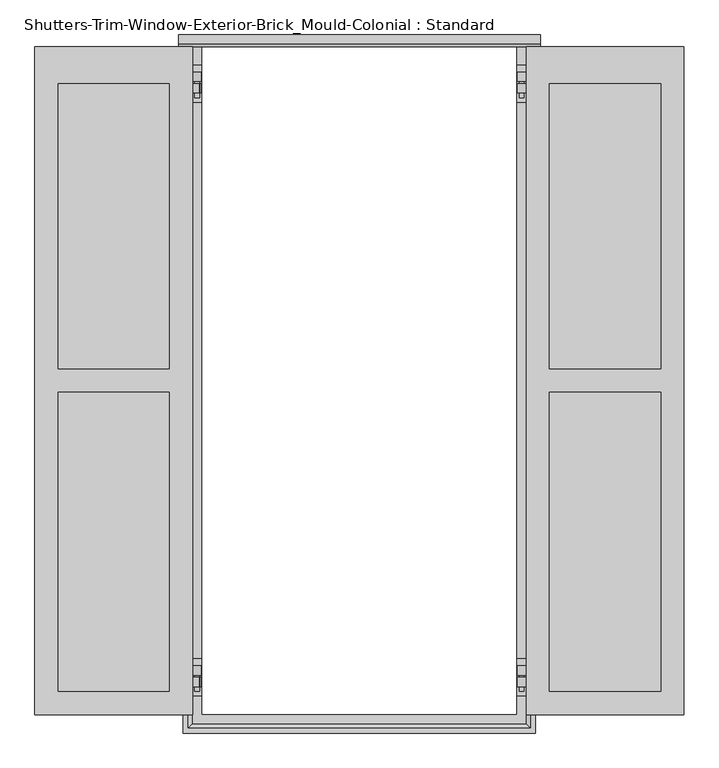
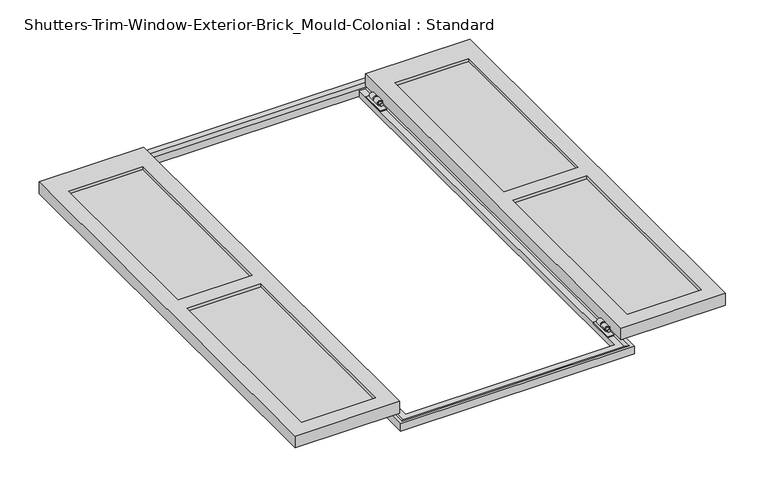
"""IFC4 building model written with IfcOpenShell, lengths in millimetres: proxy geometry, Shutters-Trim-Window-Exterior-Brick_Mould-Colonial : Standard."""

from ifc_helpers import new_model, si_unit, frame, origin, place, context, project, spatial, polyline, circle_curve, outline, extrude, faceted_brep, source, transform, mapped, element, save
from ifc_brep_helpers import plane_surface, cylinder_surface, revolved_surface, advanced_brep


def shutters_trim_window_exterior_brick_mould_colonial_standard_93ad9e11(model_context):
    return source(origin(), model_context, "Body", "SolidModel", [
        extrude(outline(polyline([(-889.0, 0.0), (-889.0, 1828.8), (-457.2, 1828.8), (-457.2, 0.0), (-889.0, 0.0)]), holes=[polyline([(-825.5, 63.5), (-520.7, 63.5), (-520.7, 882.65), (-825.5, 882.65), (-825.5, 63.5)]), polyline([(-520.7, 946.15), (-520.7, 1727.2), (-825.5, 1727.2), (-825.5, 946.15), (-520.7, 946.15)])]), frame((0.0, 0.0, 38.89375), z_axis=(0.0, 0.0, 1.0), x_axis=(1.0, 0.0, 0.0)), (0.0, 0.0, 1.0), 50.8),
        extrude(outline(polyline([(-825.5, 63.5), (-825.5, 882.65), (-520.7, 882.65), (-520.7, 63.5), (-825.5, 63.5)])), frame((0.0, 0.0, 51.59375), z_axis=(0.0, 0.0, 1.0), x_axis=(1.0, 0.0, 0.0)), (0.0, 0.0, 1.0), 25.4),
        extrude(outline(polyline([(-520.7, 946.15), (-825.5, 946.15), (-825.5, 1727.2), (-520.7, 1727.2), (-520.7, 946.15)])), frame((0.0, 0.0, 51.59375), z_axis=(0.0, 0.0, 1.0), x_axis=(1.0, 0.0, 0.0)), (0.0, 0.0, 1.0), 25.4),
        extrude(outline(polyline([(889.0, 0.0), (457.2, 0.0), (457.2, 1828.8), (889.0, 1828.8), (889.0, 0.0)]), holes=[polyline([(825.5, 63.5), (825.5, 882.65), (520.7, 882.65), (520.7, 63.5), (825.5, 63.5)]), polyline([(520.7, 946.15), (825.5, 946.15), (825.5, 1727.2), (520.7, 1727.2), (520.7, 946.15)])]), frame((0.0, 0.0, 38.89375), z_axis=(0.0, 0.0, 1.0), x_axis=(1.0, 0.0, 0.0)), (0.0, 0.0, 1.0), 50.8),
        extrude(outline(polyline([(825.5, 63.5), (520.7, 63.5), (520.7, 882.65), (825.5, 882.65), (825.5, 63.5)])), frame((0.0, 0.0, 51.59375), z_axis=(0.0, 0.0, 1.0), x_axis=(1.0, 0.0, 0.0)), (0.0, 0.0, 1.0), 25.4),
        extrude(outline(polyline([(520.7, 946.15), (520.7, 1727.2), (825.5, 1727.2), (825.5, 946.15), (520.7, 946.15)])), frame((0.0, 0.0, 51.59375), z_axis=(0.0, 0.0, 1.0), x_axis=(1.0, 0.0, 0.0)), (0.0, 0.0, 1.0), 25.4),
        extrude(outline(polyline([(-457.2, 1676.4), (-457.2, 1778.0), (-431.8, 1778.0), (-431.8, 1676.4), (-457.2, 1676.4)])), frame((0.0, 0.0, 26.19375), z_axis=(0.0, 0.0, 1.0), x_axis=(1.0, 0.0, 0.0)), (0.0, 0.0, 1.0), 4.7625),
        advanced_brep(
        [(-509.5875, 1689.1, 38.89375), (-509.5875, 1689.1, 34.13125), (-484.124, 1689.1, 34.13125), (-484.124, 1689.1, 38.89375), (-509.5875, 1739.9, 34.13125), (-509.5875, 1739.9, 38.89375), (-484.124, 1739.9, 38.89375), (-484.124, 1739.9, 34.13125), (-484.124, 1727.2, 34.13125), (-444.5, 1727.2, 34.13125), (-444.5, 1701.8, 34.13125), (-484.124, 1701.8, 34.13125), (-484.124, 1701.8, 38.89375), (-444.5, 1701.8, 38.89375), (-444.5, 1727.2, 38.89375), (-484.124, 1727.2, 38.89375), (-450.85, 1727.2, 45.24375), (-450.85, 1701.8, 45.24375), (-450.85, 1727.2, 40.48125), (-450.85, 1701.8, 40.48125), (-455.6125, 1727.2, 40.48125), (-455.6125, 1701.8, 40.48125), (-455.6125, 1727.2, 45.24375), (-455.6125, 1701.8, 45.24375)],
        [
            (0, 1),
            (1, 2),
            (2, 3),
            (3, 0),
            (4, 5),
            (5, 6),
            (6, 7),
            (7, 4),
            (1, 4),
            (7, 8),
            (8, 9),
            (9, 10),
            (10, 11),
            (11, 2),
            (0, 5),
            (3, 12),
            (12, 13),
            (13, 14),
            (14, 15),
            (15, 6),
            (16, 14, circle_curve(frame((-444.5, 1727.2, 45.24375), z_axis=(0.0, 1.0, 0.0), x_axis=(1.0, 0.0, 0.0)), 6.35)),
            (13, 17, circle_curve(frame((-444.5, 1701.8, 45.24375), z_axis=(0.0, -1.0, 0.0), x_axis=(1.0, 0.0, 0.0)), 6.35)),
            (17, 16),
            (18, 16),
            (17, 19),
            (19, 18),
            (20, 18),
            (19, 21),
            (21, 20),
            (22, 20),
            (21, 23),
            (23, 22),
            (9, 22, circle_curve(frame((-444.5, 1727.2, 45.24375), z_axis=(0.0, -1.0, 0.0), x_axis=(1.0, 0.0, 0.0)), 11.1125)),
            (23, 10, circle_curve(frame((-444.5, 1701.8, 45.24375), z_axis=(0.0, 1.0, 0.0), x_axis=(1.0, 0.0, 0.0)), 11.1125)),
            (8, 15),
            (12, 11),
        ],
        [
            plane_surface(frame((-444.5, 1689.1, 45.24375), z_axis=(0.0, -1.0, 0.0), x_axis=(0.0, 0.0, 1.0))),
            plane_surface(frame((-444.5, 1739.9, 45.24375), z_axis=(0.0, 1.0, 0.0), x_axis=(0.0, 0.0, 1.0))),
            plane_surface(frame((-509.5875, 1689.1, 34.13125), z_axis=(0.0, 0.0, -1.0), x_axis=(0.0, 1.0, 0.0))),
            plane_surface(frame((-509.5875, 1689.1, 38.89375), z_axis=(-1.0, 0.0, 0.0), x_axis=(0.0, 1.0, 0.0))),
            plane_surface(frame((-444.5, 1689.1, 38.89375), z_axis=(0.0, 0.0, 1.0), x_axis=(0.0, 1.0, 0.0))),
            revolved_surface(polyline([(-438.15, 1727.2, 45.24375), (-438.15, 1701.8, 45.24375)]), (-444.5, 1689.1, 45.24375), (0.0, 1.0, 0.0)),
            plane_surface(frame((-450.85, 1689.1, 40.48125), z_axis=(1.0, 0.0, 0.0), x_axis=(0.0, 1.0, 0.0))),
            plane_surface(frame((-455.6125, 1689.1, 40.48125), z_axis=(0.0, 0.0, -1.0), x_axis=(0.0, 1.0, 0.0))),
            plane_surface(frame((-455.6125, 1689.1, 45.24375), z_axis=(-1.0, 0.0, 0.0), x_axis=(0.0, 1.0, 0.0))),
            cylinder_surface(frame((-444.5, 1689.1, 45.24375), z_axis=(0.0, -1.0, 0.0), x_axis=(1.0, 0.0, 0.0)), 11.1125),
            plane_surface(frame((-444.5, 1727.2, 45.24375), z_axis=(0.0, 1.0, 0.0), x_axis=(0.0, 0.0, 1.0))),
            plane_surface(frame((-484.124, 1727.2, 38.89375), z_axis=(1.0, 0.0, 0.0), x_axis=(0.0, 1.0, 0.0))),
            plane_surface(frame((-444.5, 1701.8, 45.24375), z_axis=(0.0, -1.0, 0.0), x_axis=(0.0, 0.0, 1.0))),
            plane_surface(frame((-484.124, 1689.1, 38.89375), z_axis=(1.0, 0.0, 0.0), x_axis=(0.0, 1.0, 0.0))),
        ],
        [
            (0, [[1, 2, 3, 4]]),
            (1, [[5, 6, 7, 8]]),
            (2, [[9, -8, 10, 11, 12, 13, 14, -2]]),
            (3, [[-1, 15, -5, -9]]),
            (4, [[-15, -4, 16, 17, 18, 19, 20, -6]]),
            (5, [[21, -18, 22, 23]]),
            (6, [[24, -23, 25, 26]]),
            (7, [[27, -26, 28, 29]]),
            (8, [[30, -29, 31, 32]]),
            (9, [[33, -32, 34, -12]]),
            (10, [[35, -19, -21, -24, -27, -30, -33, -11]]),
            (11, [[-35, -10, -7, -20]]),
            (12, [[36, -13, -34, -31, -28, -25, -22, -17]]),
            (13, [[-36, -16, -3, -14]]),
        ],
    ),
        advanced_brep(
        [(-446.88125, 1733.55, 30.95625), (-442.11875, 1733.55, 30.95625), (-442.11875, 1733.55, 34.389382), (-446.88125, 1733.55, 34.389382), (-438.15, 1733.55, 45.24375), (-450.85, 1733.55, 45.24375), (-446.88125, 1758.95, 30.95625), (-446.88125, 1758.95, 34.389382), (-442.11875, 1758.95, 34.389382), (-442.11875, 1758.95, 30.95625), (-450.85, 1689.1, 45.24375), (-438.15, 1689.1, 45.24375)],
        [
            (0, 1),
            (1, 2),
            (2, 3, circle_curve(frame((-444.5, 1733.55, 45.24375), z_axis=(0.0, -1.0, 0.0), x_axis=(1.0, 0.0, 0.0)), 11.1125)),
            (3, 0),
            (4, 5, circle_curve(frame((-444.5, 1733.55, 45.24375), z_axis=(0.0, 1.0, 0.0), x_axis=(1.0, 0.0, 0.0)), 6.35)),
            (5, 4, circle_curve(frame((-444.5, 1733.55, 45.24375), z_axis=(0.0, 1.0, 0.0), x_axis=(1.0, 0.0, 0.0)), 6.35)),
            (6, 7),
            (7, 8, circle_curve(frame((-444.5, 1758.95, 45.24375), z_axis=(0.0, 1.0, 0.0), x_axis=(1.0, 0.0, 0.0)), 11.1125)),
            (8, 9),
            (9, 6),
            (3, 7),
            (6, 0),
            (9, 1),
            (8, 2),
            (10, 11, circle_curve(frame((-444.5, 1689.1, 45.24375), z_axis=(0.0, -1.0, 0.0), x_axis=(1.0, 0.0, 0.0)), 6.35)),
            (11, 10, circle_curve(frame((-444.5, 1689.1, 45.24375), z_axis=(0.0, -1.0, 0.0), x_axis=(1.0, 0.0, 0.0)), 6.35)),
            (10, 5),
            (4, 11),
        ],
        [
            plane_surface(frame((-442.11875, 1733.55, 30.95625), z_axis=(0.0, -1.0, 0.0), x_axis=(1.0, 0.0, 6.242784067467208e-12))),
            plane_surface(frame((-442.11875, 1758.95, 30.95625), z_axis=(0.0, 1.0, 0.0), x_axis=(-1.0, 0.0, -6.242784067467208e-12))),
            plane_surface(frame((-446.88125, 1733.55, 34.389382), z_axis=(-1.0, 0.0, 0.0), x_axis=(0.0, 1.0, 0.0))),
            plane_surface(frame((-446.88125, 1733.55, 30.95625), z_axis=(6.242784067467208e-12, 0.0, -1.0), x_axis=(0.0, 1.0, 0.0))),
            plane_surface(frame((-442.11875, 1733.55, 30.95625), z_axis=(1.0, 0.0, 0.0), x_axis=(0.0, 1.0, 0.0))),
            cylinder_surface(frame((-444.5, 1758.95, 45.24375), z_axis=(0.0, -1.0, 0.0), x_axis=(1.0, 0.0, 0.0)), 11.1125),
            plane_surface(frame((-438.15, 1689.1, 45.24375), z_axis=(0.0, -1.0, 0.0), x_axis=(0.0, 0.0, 1.0))),
            cylinder_surface(frame((-444.5, 1758.95, 45.24375), z_axis=(0.0, -1.0, 0.0), x_axis=(1.0, 0.0, 0.0)), 6.35),
        ],
        [
            (0, [[1, 2, 3, 4], [5, 6]]),
            (1, [[7, 8, 9, 10]]),
            (2, [[-4, 11, -7, 12]]),
            (3, [[-1, -12, -10, 13]]),
            (4, [[-2, -13, -9, 14]]),
            (5, [[-3, -14, -8, -11]]),
            (6, [[15, 16]]),
            (7, [[-15, 17, -5, 18]]),
            (7, [[-16, -18, -6, -17]]),
        ],
    ),
        extrude(outline(polyline([(457.2, 1676.4), (431.8, 1676.4), (431.8, 1778.0), (457.2, 1778.0), (457.2, 1676.4)])), frame((0.0, 0.0, 26.19375), z_axis=(0.0, 0.0, 1.0), x_axis=(1.0, 0.0, 0.0)), (0.0, 0.0, 1.0), 4.7625),
        advanced_brep(
        [(509.5875, 1689.1, 38.89375), (484.124, 1689.1, 38.89375), (484.124, 1689.1, 34.13125), (509.5875, 1689.1, 34.13125), (509.5875, 1739.9, 34.13125), (484.124, 1739.9, 34.13125), (484.124, 1739.9, 38.89375), (509.5875, 1739.9, 38.89375), (484.124, 1701.8, 34.13125), (444.5, 1701.8, 34.13125), (444.5, 1727.2, 34.13125), (484.124, 1727.2, 34.13125), (484.124, 1727.2, 38.89375), (444.5, 1727.2, 38.89375), (444.5, 1701.8, 38.89375), (484.124, 1701.8, 38.89375), (450.85, 1727.2, 45.24375), (450.85, 1701.8, 45.24375), (450.85, 1727.2, 40.48125), (450.85, 1701.8, 40.48125), (455.6125, 1727.2, 40.48125), (455.6125, 1701.8, 40.48125), (455.6125, 1727.2, 45.24375), (455.6125, 1701.8, 45.24375)],
        [
            (0, 1),
            (1, 2),
            (2, 3),
            (3, 0),
            (4, 5),
            (5, 6),
            (6, 7),
            (7, 4),
            (2, 8),
            (8, 9),
            (9, 10),
            (10, 11),
            (11, 5),
            (4, 3),
            (7, 0),
            (6, 12),
            (12, 13),
            (13, 14),
            (14, 15),
            (15, 1),
            (16, 17),
            (17, 14, circle_curve(frame((444.5, 1701.8, 45.24375), z_axis=(0.0, -1.0, 0.0), x_axis=(-1.0, 0.0, 0.0)), 6.35)),
            (13, 16, circle_curve(frame((444.5, 1727.2, 45.24375), z_axis=(0.0, 1.0, 0.0), x_axis=(-1.0, 0.0, 0.0)), 6.35)),
            (18, 19),
            (19, 17),
            (16, 18),
            (20, 21),
            (21, 19),
            (18, 20),
            (22, 23),
            (23, 21),
            (20, 22),
            (9, 23, circle_curve(frame((444.5, 1701.8, 45.24375), z_axis=(0.0, 1.0, 0.0), x_axis=(-1.0, 0.0, 0.0)), 11.1125)),
            (22, 10, circle_curve(frame((444.5, 1727.2, 45.24375), z_axis=(0.0, -1.0, 0.0), x_axis=(-1.0, 0.0, 0.0)), 11.1125)),
            (12, 11),
            (8, 15),
        ],
        [
            plane_surface(frame((444.5, 1689.1, 45.24375), z_axis=(0.0, -1.0, 0.0), x_axis=(0.0, 0.0, 1.0))),
            plane_surface(frame((444.5, 1739.9, 45.24375), z_axis=(0.0, 1.0, 0.0), x_axis=(0.0, 0.0, 1.0))),
            plane_surface(frame((509.5875, 1689.1, 34.13125), z_axis=(0.0, 0.0, -1.0), x_axis=(0.0, 1.0, 0.0))),
            plane_surface(frame((509.5875, 1689.1, 38.89375), z_axis=(1.0, 0.0, 0.0), x_axis=(0.0, 1.0, 0.0))),
            plane_surface(frame((444.5, 1689.1, 38.89375), z_axis=(0.0, 0.0, 1.0), x_axis=(0.0, 1.0, 0.0))),
            revolved_surface(polyline([(438.15, 1727.2, 45.24375), (438.15, 1701.8, 45.24375)]), (444.5, 1689.1, 45.24375), (0.0, 1.0, 0.0)),
            plane_surface(frame((450.85, 1689.1, 40.48125), z_axis=(-1.0, 0.0, 0.0), x_axis=(0.0, 1.0, 0.0))),
            plane_surface(frame((455.6125, 1689.1, 40.48125), z_axis=(0.0, 0.0, -1.0), x_axis=(0.0, 1.0, 0.0))),
            plane_surface(frame((455.6125, 1689.1, 45.24375), z_axis=(1.0, 0.0, 0.0), x_axis=(0.0, 1.0, 0.0))),
            cylinder_surface(frame((444.5, 1689.1, 45.24375), z_axis=(0.0, -1.0, 0.0), x_axis=(-1.0, 0.0, 0.0)), 11.1125),
            plane_surface(frame((444.5, 1727.2, 45.24375), z_axis=(0.0, 1.0, 0.0), x_axis=(0.0, 0.0, 1.0))),
            plane_surface(frame((484.124, 1727.2, 38.89375), z_axis=(-1.0, 0.0, 0.0), x_axis=(0.0, 1.0, 0.0))),
            plane_surface(frame((444.5, 1701.8, 45.24375), z_axis=(0.0, -1.0, 0.0), x_axis=(0.0, 0.0, 1.0))),
            plane_surface(frame((484.124, 1689.1, 38.89375), z_axis=(-1.0, 0.0, 0.0), x_axis=(0.0, 1.0, 0.0))),
        ],
        [
            (0, [[1, 2, 3, 4]]),
            (1, [[5, 6, 7, 8]]),
            (2, [[-3, 9, 10, 11, 12, 13, -5, 14]]),
            (3, [[-14, -8, 15, -4]]),
            (4, [[-7, 16, 17, 18, 19, 20, -1, -15]]),
            (5, [[21, 22, -18, 23]]),
            (6, [[24, 25, -21, 26]]),
            (7, [[27, 28, -24, 29]]),
            (8, [[30, 31, -27, 32]]),
            (9, [[-11, 33, -30, 34]]),
            (10, [[-12, -34, -32, -29, -26, -23, -17, 35]]),
            (11, [[-16, -6, -13, -35]]),
            (12, [[-19, -22, -25, -28, -31, -33, -10, 36]]),
            (13, [[-9, -2, -20, -36]]),
        ],
    ),
        advanced_brep(
        [(446.88125, 1733.55, 30.95625), (446.88125, 1733.55, 34.389382), (442.11875, 1733.55, 34.389382), (442.11875, 1733.55, 30.95625), (438.15, 1733.55, 45.24375), (450.85, 1733.55, 45.24375), (446.88125, 1758.95, 30.95625), (442.11875, 1758.95, 30.95625), (442.11875, 1758.95, 34.389382), (446.88125, 1758.95, 34.389382), (450.85, 1689.1, 45.24375), (438.15, 1689.1, 45.24375)],
        [
            (0, 1),
            (1, 2, circle_curve(frame((444.5, 1733.55, 45.24375), z_axis=(0.0, -1.0, 0.0), x_axis=(-1.0, 0.0, 0.0)), 11.1125)),
            (2, 3),
            (3, 0),
            (4, 5, circle_curve(frame((444.5, 1733.55, 45.24375), z_axis=(0.0, 1.0, 0.0), x_axis=(-1.0, 0.0, 0.0)), 6.35)),
            (5, 4, circle_curve(frame((444.5, 1733.55, 45.24375), z_axis=(0.0, 1.0, 0.0), x_axis=(-1.0, 0.0, 0.0)), 6.35)),
            (6, 7),
            (7, 8),
            (8, 9, circle_curve(frame((444.5, 1758.95, 45.24375), z_axis=(0.0, 1.0, 0.0), x_axis=(-1.0, 0.0, 0.0)), 11.1125)),
            (9, 6),
            (0, 6),
            (9, 1),
            (3, 7),
            (2, 8),
            (10, 11, circle_curve(frame((444.5, 1689.1, 45.24375), z_axis=(0.0, -1.0, 0.0), x_axis=(-1.0, 0.0, 0.0)), 6.35)),
            (11, 10, circle_curve(frame((444.5, 1689.1, 45.24375), z_axis=(0.0, -1.0, 0.0), x_axis=(-1.0, 0.0, 0.0)), 6.35)),
            (11, 4),
            (5, 10),
        ],
        [
            plane_surface(frame((442.11875, 1733.55, 30.95625), z_axis=(0.0, -1.0, 0.0), x_axis=(-1.0, 0.0, 6.242784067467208e-12))),
            plane_surface(frame((442.11875, 1758.95, 30.95625), z_axis=(0.0, 1.0, 0.0), x_axis=(1.0, 0.0, -6.242784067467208e-12))),
            plane_surface(frame((446.88125, 1733.55, 34.389382), z_axis=(1.0, 0.0, 0.0), x_axis=(0.0, 1.0, 0.0))),
            plane_surface(frame((446.88125, 1733.55, 30.95625), z_axis=(-6.242784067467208e-12, 0.0, -1.0), x_axis=(0.0, 1.0, 0.0))),
            plane_surface(frame((442.11875, 1733.55, 30.95625), z_axis=(-1.0, 0.0, 0.0), x_axis=(0.0, 1.0, 0.0))),
            cylinder_surface(frame((444.5, 1758.95, 45.24375), z_axis=(0.0, -1.0, 0.0), x_axis=(-1.0, 0.0, 0.0)), 11.1125),
            plane_surface(frame((438.15, 1689.1, 45.24375), z_axis=(0.0, -1.0, 0.0), x_axis=(0.0, 0.0, 1.0))),
            cylinder_surface(frame((444.5, 1758.95, 45.24375), z_axis=(0.0, -1.0, 0.0), x_axis=(-1.0, 0.0, 0.0)), 6.35),
        ],
        [
            (0, [[1, 2, 3, 4], [5, 6]]),
            (1, [[7, 8, 9, 10]]),
            (2, [[11, -10, 12, -1]]),
            (3, [[13, -7, -11, -4]]),
            (4, [[14, -8, -13, -3]]),
            (5, [[-12, -9, -14, -2]]),
            (6, [[15, 16]]),
            (7, [[17, -6, 18, -16]]),
            (7, [[-18, -5, -17, -15]]),
        ],
    ),
        extrude(outline(polyline([(457.2, 50.8), (431.8, 50.8), (431.8, 152.4), (457.2, 152.4), (457.2, 50.8)])), frame((0.0, 0.0, 26.19375), z_axis=(0.0, 0.0, 1.0), x_axis=(1.0, 0.0, 0.0)), (0.0, 0.0, 1.0), 4.7625),
        advanced_brep(
        [(509.5875, 63.5, 38.89375), (484.124, 63.5, 38.89375), (484.124, 63.5, 34.13125), (509.5875, 63.5, 34.13125), (509.5875, 114.3, 34.13125), (484.124, 114.3, 34.13125), (484.124, 114.3, 38.89375), (509.5875, 114.3, 38.89375), (484.124, 76.2, 34.13125), (444.5, 76.2, 34.13125), (444.5, 101.6, 34.13125), (484.124, 101.6, 34.13125), (484.124, 101.6, 38.89375), (444.5, 101.6, 38.89375), (444.5, 76.2, 38.89375), (484.124, 76.2, 38.89375), (450.85, 101.6, 45.24375), (450.85, 76.2, 45.24375), (450.85, 101.6, 40.48125), (450.85, 76.2, 40.48125), (455.6125, 101.6, 40.48125), (455.6125, 76.2, 40.48125), (455.6125, 101.6, 45.24375), (455.6125, 76.2, 45.24375)],
        [
            (0, 1),
            (1, 2),
            (2, 3),
            (3, 0),
            (4, 5),
            (5, 6),
            (6, 7),
            (7, 4),
            (2, 8),
            (8, 9),
            (9, 10),
            (10, 11),
            (11, 5),
            (4, 3),
            (7, 0),
            (6, 12),
            (12, 13),
            (13, 14),
            (14, 15),
            (15, 1),
            (16, 17),
            (17, 14, circle_curve(frame((444.5, 76.2, 45.24375), z_axis=(0.0, -1.0, 0.0), x_axis=(-1.0, 0.0, 0.0)), 6.35)),
            (13, 16, circle_curve(frame((444.5, 101.6, 45.24375), z_axis=(0.0, 1.0, 0.0), x_axis=(-1.0, 0.0, 0.0)), 6.35)),
            (18, 19),
            (19, 17),
            (16, 18),
            (20, 21),
            (21, 19),
            (18, 20),
            (22, 23),
            (23, 21),
            (20, 22),
            (9, 23, circle_curve(frame((444.5, 76.2, 45.24375), z_axis=(0.0, 1.0, 0.0), x_axis=(-1.0, 0.0, 0.0)), 11.1125)),
            (22, 10, circle_curve(frame((444.5, 101.6, 45.24375), z_axis=(0.0, -1.0, 0.0), x_axis=(-1.0, 0.0, 0.0)), 11.1125)),
            (12, 11),
            (8, 15),
        ],
        [
            plane_surface(frame((444.5, 63.5, 45.24375), z_axis=(0.0, -1.0, 0.0), x_axis=(0.0, 0.0, 1.0))),
            plane_surface(frame((444.5, 114.3, 45.24375), z_axis=(0.0, 1.0, 0.0), x_axis=(0.0, 0.0, 1.0))),
            plane_surface(frame((509.5875, 63.5, 34.13125), z_axis=(0.0, 0.0, -1.0), x_axis=(0.0, 1.0, 0.0))),
            plane_surface(frame((509.5875, 63.5, 38.89375), z_axis=(1.0, 0.0, 0.0), x_axis=(0.0, 1.0, 0.0))),
            plane_surface(frame((444.5, 63.5, 38.89375), z_axis=(0.0, 0.0, 1.0), x_axis=(0.0, 1.0, 0.0))),
            revolved_surface(polyline([(438.15, 101.6, 45.24375), (438.15, 76.2, 45.24375)]), (444.5, 63.5, 45.24375), (0.0, 1.0, 0.0)),
            plane_surface(frame((450.85, 63.5, 40.48125), z_axis=(-1.0, 0.0, 0.0), x_axis=(0.0, 1.0, 0.0))),
            plane_surface(frame((455.6125, 63.5, 40.48125), z_axis=(0.0, 0.0, -1.0), x_axis=(0.0, 1.0, 0.0))),
            plane_surface(frame((455.6125, 63.5, 45.24375), z_axis=(1.0, 0.0, 0.0), x_axis=(0.0, 1.0, 0.0))),
            cylinder_surface(frame((444.5, 63.5, 45.24375), z_axis=(0.0, -1.0, 0.0), x_axis=(-1.0, 0.0, 0.0)), 11.1125),
            plane_surface(frame((444.5, 101.6, 45.24375), z_axis=(0.0, 1.0, 0.0), x_axis=(0.0, 0.0, 1.0))),
            plane_surface(frame((484.124, 101.6, 38.89375), z_axis=(-1.0, 0.0, 0.0), x_axis=(0.0, 1.0, 0.0))),
            plane_surface(frame((444.5, 76.2, 45.24375), z_axis=(0.0, -1.0, 0.0), x_axis=(0.0, 0.0, 1.0))),
            plane_surface(frame((484.124, 63.5, 38.89375), z_axis=(-1.0, 0.0, 0.0), x_axis=(0.0, 1.0, 0.0))),
        ],
        [
            (0, [[1, 2, 3, 4]]),
            (1, [[5, 6, 7, 8]]),
            (2, [[-3, 9, 10, 11, 12, 13, -5, 14]]),
            (3, [[-14, -8, 15, -4]]),
            (4, [[-7, 16, 17, 18, 19, 20, -1, -15]]),
            (5, [[21, 22, -18, 23]]),
            (6, [[24, 25, -21, 26]]),
            (7, [[27, 28, -24, 29]]),
            (8, [[30, 31, -27, 32]]),
            (9, [[-11, 33, -30, 34]]),
            (10, [[-12, -34, -32, -29, -26, -23, -17, 35]]),
            (11, [[-16, -6, -13, -35]]),
            (12, [[-19, -22, -25, -28, -31, -33, -10, 36]]),
            (13, [[-9, -2, -20, -36]]),
        ],
    ),
        advanced_brep(
        [(446.88125, 107.95, 30.95625), (446.88125, 107.95, 34.389382), (442.11875, 107.95, 34.389382), (442.11875, 107.95, 30.95625), (438.15, 107.95, 45.24375), (450.85, 107.95, 45.24375), (446.88125, 133.35, 30.95625), (442.11875, 133.35, 30.95625), (442.11875, 133.35, 34.389382), (446.88125, 133.35, 34.389382), (450.85, 63.5, 45.24375), (438.15, 63.5, 45.24375)],
        [
            (0, 1),
            (1, 2, circle_curve(frame((444.5, 107.95, 45.24375), z_axis=(0.0, -1.0, 0.0), x_axis=(-1.0, 0.0, 0.0)), 11.1125)),
            (2, 3),
            (3, 0),
            (4, 5, circle_curve(frame((444.5, 107.95, 45.24375), z_axis=(0.0, 1.0, 0.0), x_axis=(-1.0, 0.0, 0.0)), 6.35)),
            (5, 4, circle_curve(frame((444.5, 107.95, 45.24375), z_axis=(0.0, 1.0, 0.0), x_axis=(-1.0, 0.0, 0.0)), 6.35)),
            (6, 7),
            (7, 8),
            (8, 9, circle_curve(frame((444.5, 133.35, 45.24375), z_axis=(0.0, 1.0, 0.0), x_axis=(-1.0, 0.0, 0.0)), 11.1125)),
            (9, 6),
            (0, 6),
            (9, 1),
            (3, 7),
            (2, 8),
            (10, 11, circle_curve(frame((444.5, 63.5, 45.24375), z_axis=(0.0, -1.0, 0.0), x_axis=(-1.0, 0.0, 0.0)), 6.35)),
            (11, 10, circle_curve(frame((444.5, 63.5, 45.24375), z_axis=(0.0, -1.0, 0.0), x_axis=(-1.0, 0.0, 0.0)), 6.35)),
            (11, 4),
            (5, 10),
        ],
        [
            plane_surface(frame((442.11875, 107.95, 30.95625), z_axis=(0.0, -1.0, 0.0), x_axis=(-1.0, 0.0, 6.242784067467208e-12))),
            plane_surface(frame((442.11875, 133.35, 30.95625), z_axis=(0.0, 1.0, 0.0), x_axis=(1.0, 0.0, -6.242784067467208e-12))),
            plane_surface(frame((446.88125, 107.95, 34.389382), z_axis=(1.0, 0.0, 0.0), x_axis=(0.0, 1.0, 0.0))),
            plane_surface(frame((446.88125, 107.95, 30.95625), z_axis=(-6.242784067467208e-12, 0.0, -1.0), x_axis=(0.0, 1.0, 0.0))),
            plane_surface(frame((442.11875, 107.95, 30.95625), z_axis=(-1.0, 0.0, 0.0), x_axis=(0.0, 1.0, 0.0))),
            cylinder_surface(frame((444.5, 133.35, 45.24375), z_axis=(0.0, -1.0, 0.0), x_axis=(-1.0, 0.0, 0.0)), 11.1125),
            plane_surface(frame((438.15, 63.5, 45.24375), z_axis=(0.0, -1.0, 0.0), x_axis=(0.0, 0.0, 1.0))),
            cylinder_surface(frame((444.5, 133.35, 45.24375), z_axis=(0.0, -1.0, 0.0), x_axis=(-1.0, 0.0, 0.0)), 6.35),
        ],
        [
            (0, [[1, 2, 3, 4], [5, 6]]),
            (1, [[7, 8, 9, 10]]),
            (2, [[11, -10, 12, -1]]),
            (3, [[13, -7, -11, -4]]),
            (4, [[14, -8, -13, -3]]),
            (5, [[-12, -9, -14, -2]]),
            (6, [[15, 16]]),
            (7, [[17, -6, 18, -16]]),
            (7, [[-18, -5, -17, -15]]),
        ],
    ),
        extrude(outline(polyline([(-457.2, 50.8), (-457.2, 152.4), (-431.8, 152.4), (-431.8, 50.8), (-457.2, 50.8)])), frame((0.0, 0.0, 26.19375), z_axis=(0.0, 0.0, 1.0), x_axis=(1.0, 0.0, 0.0)), (0.0, 0.0, 1.0), 4.7625),
        advanced_brep(
        [(-509.5875, 63.5, 38.89375), (-509.5875, 63.5, 34.13125), (-484.124, 63.5, 34.13125), (-484.124, 63.5, 38.89375), (-509.5875, 114.3, 34.13125), (-509.5875, 114.3, 38.89375), (-484.124, 114.3, 38.89375), (-484.124, 114.3, 34.13125), (-484.124, 101.6, 34.13125), (-444.5, 101.6, 34.13125), (-444.5, 76.2, 34.13125), (-484.124, 76.2, 34.13125), (-484.124, 76.2, 38.89375), (-444.5, 76.2, 38.89375), (-444.5, 101.6, 38.89375), (-484.124, 101.6, 38.89375), (-450.85, 101.6, 45.24375), (-450.85, 76.2, 45.24375), (-450.85, 101.6, 40.48125), (-450.85, 76.2, 40.48125), (-455.6125, 101.6, 40.48125), (-455.6125, 76.2, 40.48125), (-455.6125, 101.6, 45.24375), (-455.6125, 76.2, 45.24375)],
        [
            (0, 1),
            (1, 2),
            (2, 3),
            (3, 0),
            (4, 5),
            (5, 6),
            (6, 7),
            (7, 4),
            (1, 4),
            (7, 8),
            (8, 9),
            (9, 10),
            (10, 11),
            (11, 2),
            (0, 5),
            (3, 12),
            (12, 13),
            (13, 14),
            (14, 15),
            (15, 6),
            (16, 14, circle_curve(frame((-444.5, 101.6, 45.24375), z_axis=(0.0, 1.0, 0.0), x_axis=(1.0, 0.0, 0.0)), 6.35)),
            (13, 17, circle_curve(frame((-444.5, 76.2, 45.24375), z_axis=(0.0, -1.0, 0.0), x_axis=(1.0, 0.0, 0.0)), 6.35)),
            (17, 16),
            (18, 16),
            (17, 19),
            (19, 18),
            (20, 18),
            (19, 21),
            (21, 20),
            (22, 20),
            (21, 23),
            (23, 22),
            (9, 22, circle_curve(frame((-444.5, 101.6, 45.24375), z_axis=(0.0, -1.0, 0.0), x_axis=(1.0, 0.0, 0.0)), 11.1125)),
            (23, 10, circle_curve(frame((-444.5, 76.2, 45.24375), z_axis=(0.0, 1.0, 0.0), x_axis=(1.0, 0.0, 0.0)), 11.1125)),
            (8, 15),
            (12, 11),
        ],
        [
            plane_surface(frame((-444.5, 63.5, 45.24375), z_axis=(0.0, -1.0, 0.0), x_axis=(0.0, 0.0, 1.0))),
            plane_surface(frame((-444.5, 114.3, 45.24375), z_axis=(0.0, 1.0, 0.0), x_axis=(0.0, 0.0, 1.0))),
            plane_surface(frame((-509.5875, 63.5, 34.13125), z_axis=(0.0, 0.0, -1.0), x_axis=(0.0, 1.0, 0.0))),
            plane_surface(frame((-509.5875, 63.5, 38.89375), z_axis=(-1.0, 0.0, 0.0), x_axis=(0.0, 1.0, 0.0))),
            plane_surface(frame((-444.5, 63.5, 38.89375), z_axis=(0.0, 0.0, 1.0), x_axis=(0.0, 1.0, 0.0))),
            revolved_surface(polyline([(-438.15, 101.6, 45.24375), (-438.15, 76.2, 45.24375)]), (-444.5, 63.5, 45.24375), (0.0, 1.0, 0.0)),
            plane_surface(frame((-450.85, 63.5, 40.48125), z_axis=(1.0, 0.0, 0.0), x_axis=(0.0, 1.0, 0.0))),
            plane_surface(frame((-455.6125, 63.5, 40.48125), z_axis=(0.0, 0.0, -1.0), x_axis=(0.0, 1.0, 0.0))),
            plane_surface(frame((-455.6125, 63.5, 45.24375), z_axis=(-1.0, 0.0, 0.0), x_axis=(0.0, 1.0, 0.0))),
            cylinder_surface(frame((-444.5, 63.5, 45.24375), z_axis=(0.0, -1.0, 0.0), x_axis=(1.0, 0.0, 0.0)), 11.1125),
            plane_surface(frame((-444.5, 101.6, 45.24375), z_axis=(0.0, 1.0, 0.0), x_axis=(0.0, 0.0, 1.0))),
            plane_surface(frame((-484.124, 101.6, 38.89375), z_axis=(1.0, 0.0, 0.0), x_axis=(0.0, 1.0, 0.0))),
            plane_surface(frame((-444.5, 76.2, 45.24375), z_axis=(0.0, -1.0, 0.0), x_axis=(0.0, 0.0, 1.0))),
            plane_surface(frame((-484.124, 63.5, 38.89375), z_axis=(1.0, 0.0, 0.0), x_axis=(0.0, 1.0, 0.0))),
        ],
        [
            (0, [[1, 2, 3, 4]]),
            (1, [[5, 6, 7, 8]]),
            (2, [[9, -8, 10, 11, 12, 13, 14, -2]]),
            (3, [[-1, 15, -5, -9]]),
            (4, [[-15, -4, 16, 17, 18, 19, 20, -6]]),
            (5, [[21, -18, 22, 23]]),
            (6, [[24, -23, 25, 26]]),
            (7, [[27, -26, 28, 29]]),
            (8, [[30, -29, 31, 32]]),
            (9, [[33, -32, 34, -12]]),
            (10, [[35, -19, -21, -24, -27, -30, -33, -11]]),
            (11, [[-35, -10, -7, -20]]),
            (12, [[36, -13, -34, -31, -28, -25, -22, -17]]),
            (13, [[-36, -16, -3, -14]]),
        ],
    ),
        advanced_brep(
        [(-446.88125, 107.95, 30.95625), (-442.11875, 107.95, 30.95625), (-442.11875, 107.95, 34.389382), (-446.88125, 107.95, 34.389382), (-438.15, 107.95, 45.24375), (-450.85, 107.95, 45.24375), (-446.88125, 133.35, 30.95625), (-446.88125, 133.35, 34.389382), (-442.11875, 133.35, 34.389382), (-442.11875, 133.35, 30.95625), (-450.85, 63.5, 45.24375), (-438.15, 63.5, 45.24375)],
        [
            (0, 1),
            (1, 2),
            (2, 3, circle_curve(frame((-444.5, 107.95, 45.24375), z_axis=(0.0, -1.0, 0.0), x_axis=(1.0, 0.0, 0.0)), 11.1125)),
            (3, 0),
            (4, 5, circle_curve(frame((-444.5, 107.95, 45.24375), z_axis=(0.0, 1.0, 0.0), x_axis=(1.0, 0.0, 0.0)), 6.35)),
            (5, 4, circle_curve(frame((-444.5, 107.95, 45.24375), z_axis=(0.0, 1.0, 0.0), x_axis=(1.0, 0.0, 0.0)), 6.35)),
            (6, 7),
            (7, 8, circle_curve(frame((-444.5, 133.35, 45.24375), z_axis=(0.0, 1.0, 0.0), x_axis=(1.0, 0.0, 0.0)), 11.1125)),
            (8, 9),
            (9, 6),
            (3, 7),
            (6, 0),
            (9, 1),
            (8, 2),
            (10, 11, circle_curve(frame((-444.5, 63.5, 45.24375), z_axis=(0.0, -1.0, 0.0), x_axis=(1.0, 0.0, 0.0)), 6.35)),
            (11, 10, circle_curve(frame((-444.5, 63.5, 45.24375), z_axis=(0.0, -1.0, 0.0), x_axis=(1.0, 0.0, 0.0)), 6.35)),
            (10, 5),
            (4, 11),
        ],
        [
            plane_surface(frame((-442.11875, 107.95, 30.95625), z_axis=(0.0, -1.0, 0.0), x_axis=(1.0, 0.0, 6.242784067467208e-12))),
            plane_surface(frame((-442.11875, 133.35, 30.95625), z_axis=(0.0, 1.0, 0.0), x_axis=(-1.0, 0.0, -6.242784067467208e-12))),
            plane_surface(frame((-446.88125, 107.95, 34.389382), z_axis=(-1.0, 0.0, 0.0), x_axis=(0.0, 1.0, 0.0))),
            plane_surface(frame((-446.88125, 107.95, 30.95625), z_axis=(6.242784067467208e-12, 0.0, -1.0), x_axis=(0.0, 1.0, 0.0))),
            plane_surface(frame((-442.11875, 107.95, 30.95625), z_axis=(1.0, 0.0, 0.0), x_axis=(0.0, 1.0, 0.0))),
            cylinder_surface(frame((-444.5, 133.35, 45.24375), z_axis=(0.0, -1.0, 0.0), x_axis=(1.0, 0.0, 0.0)), 11.1125),
            plane_surface(frame((-438.15, 63.5, 45.24375), z_axis=(0.0, -1.0, 0.0), x_axis=(0.0, 0.0, 1.0))),
            cylinder_surface(frame((-444.5, 133.35, 45.24375), z_axis=(0.0, -1.0, 0.0), x_axis=(1.0, 0.0, 0.0)), 6.35),
        ],
        [
            (0, [[1, 2, 3, 4], [5, 6]]),
            (1, [[7, 8, 9, 10]]),
            (2, [[-4, 11, -7, 12]]),
            (3, [[-1, -12, -10, 13]]),
            (4, [[-2, -13, -9, 14]]),
            (5, [[-3, -14, -8, -11]]),
            (6, [[15, 16]]),
            (7, [[-15, 17, -5, 18]]),
            (7, [[-16, -18, -6, -17]]),
        ],
    ),
        extrude(outline(polyline([(1828.8, 31.75), (1834.5780275, 47.625), (1860.55, 47.625), (1860.55, 0.0), (1828.8, 0.0), (1828.8, 31.75)])), frame((-495.3, 0.0, 0.0), z_axis=(1.0, 0.0, 0.0), x_axis=(0.0, 1.0, 0.0)), (0.0, 0.0, 1.0), 990.6),
        faceted_brep([(482.6, 1828.8, 0.0), (431.8, 1828.8, 0.0), (431.8, 1828.8, 26.19375), (457.2, 1828.8, 26.19375), (469.9, 1828.8, 31.75), (482.6, 1828.8, 31.75), (-482.6, 1828.8, 0.0), (-482.6, 1828.8, 31.75), (-469.9, 1828.8, 31.75), (-457.2, 1828.8, 26.19375), (-431.8, 1828.8, 26.19375), (-431.8, 1828.8, 0.0), (482.6, -50.8, 31.75), (482.6, -50.8, 0.0), (469.9, -38.1, 31.75), (-469.9, -38.1, 31.75), (-482.6, -50.8, 31.75), (457.2, -25.4, 26.19375), (431.8, 0.0, 26.19375), (-431.8, 0.0, 26.19375), (-457.2, -25.4, 26.19375), (431.8, 0.0, 0.0), (-482.6, -50.8, 0.0), (-431.8, 0.0, 0.0)], [[[0, 1, 2, 3, 4, 5]], [[6, 7, 8, 9, 10, 11]], [[5, 12, 13, 0]], [[4, 14, 15, 8, 7, 16, 12, 5]], [[3, 17, 14, 4]], [[2, 18, 19, 10, 9, 20, 17, 3]], [[1, 21, 18, 2]], [[0, 13, 22, 6, 11, 23, 21, 1]], [[12, 16, 22, 13]], [[17, 20, 15, 14]], [[21, 23, 19, 18]], [[16, 7, 6, 22]], [[20, 9, 8, 15]], [[23, 11, 10, 19]]]),
    ])


if __name__ == "__main__":
    model = new_model("IFC4")
    model_context = context("Model", 3, world=origin())
    ifc_project = project(units=[si_unit("LENGTHUNIT", "METRE", prefix="MILLI")], contexts=[model_context])
    site = spatial("IfcSite", under=ifc_project)
    building = spatial("IfcBuilding", under=site)
    placement = place(None, origin())
    shutters_trim_window_exterior_brick_mould_colonial_standard_shape = shutters_trim_window_exterior_brick_mould_colonial_standard_93ad9e11(model_context)
    element("IfcBuildingElementProxy", 1, Name="Shutters-Trim-Window-Exterior-Brick_Mould-Colonial : Standard", ObjectType="Shutters-Trim-Window-Exterior-Brick_Mould-Colonial : Standard", at=placement, inside=building, context=model_context, shape_type="MappedRepresentation", body=[
        mapped(shutters_trim_window_exterior_brick_mould_colonial_standard_shape, transform((0.0, 0.0, 0.0), x_axis=(1.0, 0.0, 0.0), y_axis=(0.0, 1.0, 0.0), z_axis=(0.0, 0.0, 1.0))),
    ])
    save(model, "model.ifc")
